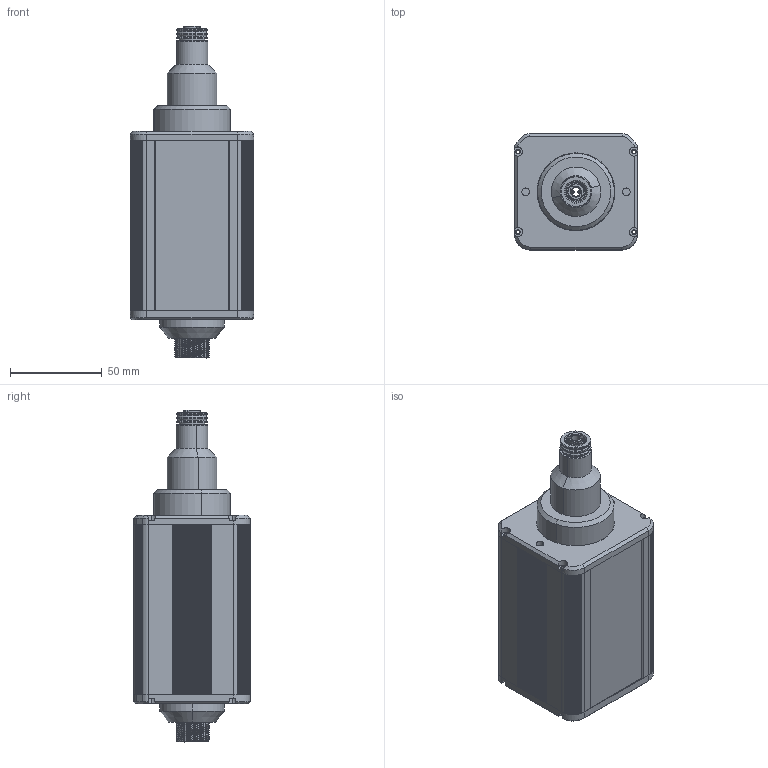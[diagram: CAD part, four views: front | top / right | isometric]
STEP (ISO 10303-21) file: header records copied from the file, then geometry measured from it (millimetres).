
FILE_DESCRIPTION (( 'STEP AP203' ), '1' );
FILE_NAME ('ZEDA-DE-MA5-0200.STEP', '2026-06-04T03:31:08', ( 'Windows User' ), ( 'P R C' ), 'SwSTEP 2.0', 'SolidWorks 2025', '' );
FILE_SCHEMA (( 'CONFIG_CONTROL_DESIGN' ));
Length unit declared in the file: millimetre
Products named in the file (1): ZEDA-DE-MA5-0200
Bounding box: 67.4 x 63.4 x 181.35 mm (x, y, z)
Surface area: 49197.9 mm2 (no closed solid volume)
Topology: 0 solids, 21 shells, 508 faces, 1643 edges, 1133 vertices
Faces by surface type: cylinder 310, plane 93, cone 52, bspline 27, torus 26
Entity records: 32454 total; most frequent: CARTESIAN_POINT 18109, DIRECTION 3077, ORIENTED_EDGE 2922, EDGE_CURVE 1643, AXIS2_PLACEMENT_3D 1195, VERTEX_POINT 1133, CIRCLE 713, LINE 687
